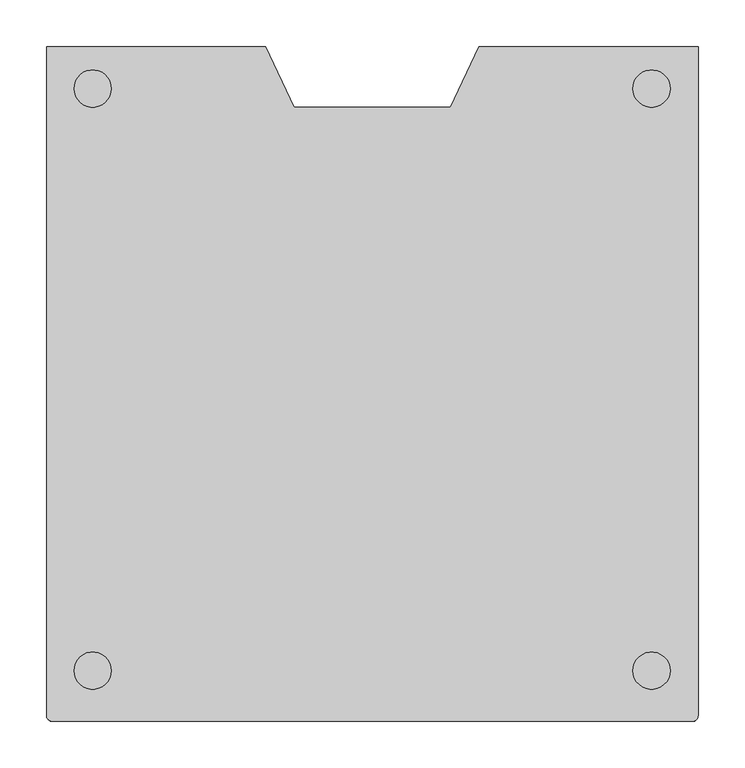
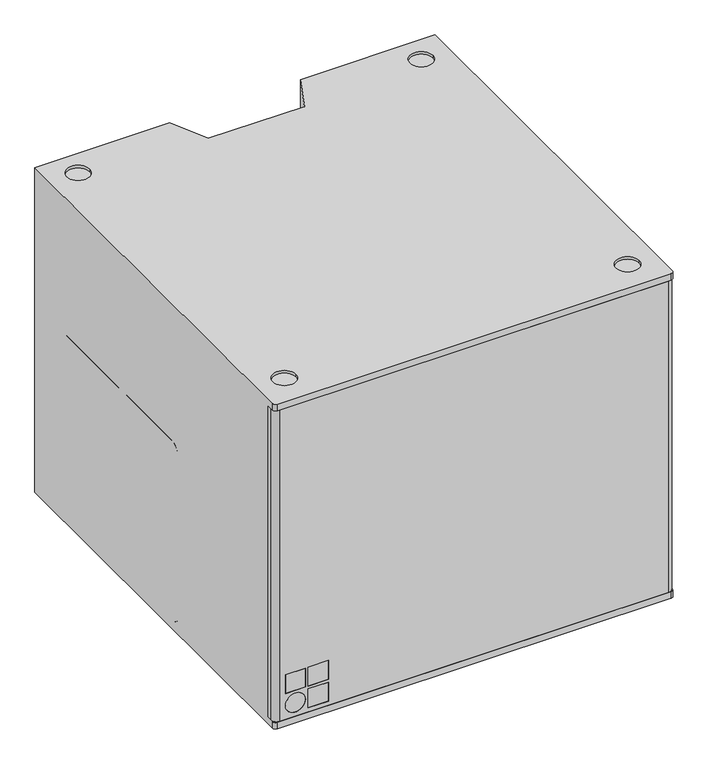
"""IFC4 building model written with IfcOpenShell, lengths in millimetres: proxy geometry, d&b V-Series GSUB Subwoofer : Vi-GSUB."""

from ifc_helpers import new_model, si_unit, point, frame, frame_2d, origin, place, context, project, spatial, polyline, circle_curve, trimmed, segment, composite_curve, outline, extrude, source, transform, mapped, element, save
from ifc_brep_helpers import plane_surface, cylinder_surface, revolved_surface, advanced_brep


def communication_devices_d743389a(model_context):
    return source(origin(), model_context, "Body", "SolidModel", [
        advanced_brep(
        [(123.7, 352.25, 33.5), (226.1099978, 352.25, 33.5), (235.3099978, 352.25, 24.3), (235.3099978, 352.25, -94.3), (226.1099978, 352.25, -103.5), (123.7, 352.25, -103.5), (114.5, 352.25, -94.3), (114.5, 352.25, 24.3), (276.5, 352.25, 158.5), (288.5, 352.25, 146.5), (288.5, 352.25, 93.5), (276.5, 352.25, 81.5), (183.5, 352.25, 81.5), (171.5, 352.25, 93.5), (171.5, 352.25, 146.5), (183.5, 352.25, 158.5), (-276.5, 352.25, 158.5), (-183.5, 352.25, 158.5), (-171.5, 352.25, 146.5), (-171.5, 352.25, 93.5), (-183.5, 352.25, 81.5), (-276.5, 352.25, 81.5), (-288.5, 352.25, 93.5), (-288.5, 352.25, 146.5), (114.5, 362.25, -94.3), (114.5, 362.25, 24.3), (226.1099978, 362.25, -103.5), (123.7, 362.25, -103.5), (235.3099978, 362.25, -94.3), (235.3099978, 362.25, 24.3), (226.1099978, 362.25, 33.5), (123.7, 362.25, 33.5), (183.5, 362.25, 158.5), (276.5, 362.25, 158.5), (171.5, 362.25, 146.5), (171.5, 362.25, 93.5), (183.5, 362.25, 81.5), (276.5, 362.25, 81.5), (288.5, 362.25, 93.5), (288.5, 362.25, 146.5), (-288.5, 362.25, 146.5), (-276.5, 362.25, 158.5), (-288.5, 362.25, 93.5), (-276.5, 362.25, 81.5), (-183.5, 362.25, 81.5), (-171.5, 362.25, 93.5), (-171.5, 362.25, 146.5), (-183.5, 362.25, 158.5), (350.0, -342.25, 288.0), (350.0, -342.25, -288.0), (350.0, -356.25, -288.0), (350.0, -356.25, -300.0), (350.0, 362.25, -300.0), (350.0, 362.25, 300.0), (350.0, -356.25, 300.0), (350.0, -356.25, 288.0), (114.5, 362.25, 300.0), (114.5, 362.25, -300.0), (84.1900022, 297.25, 300.0), (84.1900022, 297.25, -300.0), (-84.1900022, 297.25, 300.0), (-84.1900022, 297.25, -300.0), (-114.5, 362.25, 300.0), (-114.5, 362.25, -300.0), (-350.0, 362.25, 300.0), (-350.0, 362.25, -300.0), (-350.0, -342.25, -288.0), (-350.0, -342.25, 288.0), (-350.0, -356.25, 288.0), (-350.0, -356.25, 300.0), (-350.0, -356.25, -300.0), (-350.0, -356.25, -288.0), (-344.0, -362.25, 300.0), (344.0, -362.25, 300.0), (-320.4325252, 317.1946697, 300.0), (-280.4325252, 317.1946697, 300.0), (-320.4325252, -307.8196697, 300.0), (-280.4325252, -307.8196697, 300.0), (280.0525208, 317.1946697, 300.0), (320.0525208, 317.1946697, 300.0), (280.0525208, -307.8196697, 300.0), (320.0525208, -307.8196697, 300.0), (344.0, -362.25, 288.0), (-344.0, -362.25, 288.0), (344.0, -362.25, -300.0), (-344.0, -362.25, -300.0), (-344.0, -362.25, -288.0), (344.0, -362.25, -288.0), (-280.4325252, 317.1946697, 295.0), (-320.4325252, 317.1946697, 295.0), (-280.4325252, -307.8196697, 295.0), (-320.4325252, -307.8196697, 295.0), (320.0525208, 317.1946697, 295.0), (280.0525208, 317.1946697, 295.0), (320.0525208, -307.8196697, 295.0), (280.0525208, -307.8196697, 295.0)],
        [
            (0, 1),
            (1, 2, circle_curve(frame((226.1099978, 352.25, 24.3), z_axis=(0.0, 1.0, 0.0), x_axis=(-1.0, 0.0, 0.0)), 9.2)),
            (2, 3),
            (3, 4, circle_curve(frame((226.1099978, 352.25, -94.3), z_axis=(0.0, 1.0, 0.0), x_axis=(-1.0, 0.0, 0.0)), 9.2)),
            (4, 5),
            (5, 6, circle_curve(frame((123.7, 352.25, -94.3), z_axis=(0.0, 1.0, 0.0), x_axis=(-1.0, 0.0, 0.0)), 9.2)),
            (6, 7),
            (7, 0, circle_curve(frame((123.7, 352.25, 24.3), z_axis=(0.0, 1.0, 0.0), x_axis=(-1.0, 0.0, 0.0)), 9.2)),
            (8, 9, circle_curve(frame((276.5, 352.25, 146.5), z_axis=(0.0, 1.0, 0.0), x_axis=(-1.0, 0.0, 0.0)), 12.0)),
            (9, 10),
            (10, 11, circle_curve(frame((276.5, 352.25, 93.5), z_axis=(0.0, 1.0, 0.0), x_axis=(-1.0, 0.0, 0.0)), 12.0)),
            (11, 12),
            (12, 13, circle_curve(frame((183.5, 352.25, 93.5), z_axis=(0.0, 1.0, 0.0), x_axis=(-1.0, 0.0, 0.0)), 12.0)),
            (13, 14),
            (14, 15, circle_curve(frame((183.5, 352.25, 146.5), z_axis=(0.0, 1.0, 0.0), x_axis=(-1.0, 0.0, 0.0)), 12.0)),
            (15, 8),
            (16, 17),
            (17, 18, circle_curve(frame((-183.5, 352.25, 146.5), z_axis=(0.0, 1.0, 0.0), x_axis=(-1.0, 0.0, 0.0)), 12.0)),
            (18, 19),
            (19, 20, circle_curve(frame((-183.5, 352.25, 93.5), z_axis=(0.0, 1.0, 0.0), x_axis=(-1.0, 0.0, 0.0)), 12.0)),
            (20, 21),
            (21, 22, circle_curve(frame((-276.5, 352.25, 93.5), z_axis=(0.0, 1.0, 0.0), x_axis=(-1.0, 0.0, 0.0)), 12.0)),
            (22, 23),
            (23, 16, circle_curve(frame((-276.5, 352.25, 146.5), z_axis=(0.0, 1.0, 0.0), x_axis=(-1.0, 0.0, 0.0)), 12.0)),
            (6, 24),
            (24, 25),
            (25, 7),
            (4, 26),
            (26, 27),
            (27, 5),
            (3, 28),
            (28, 26, circle_curve(frame((226.1099978, 362.25, -94.3), z_axis=(0.0, 1.0, 0.0), x_axis=(-1.0, 0.0, 0.0)), 9.2)),
            (2, 29),
            (29, 28),
            (1, 30),
            (30, 29, circle_curve(frame((226.1099978, 362.25, 24.3), z_axis=(0.0, 1.0, 0.0), x_axis=(-1.0, 0.0, 0.0)), 9.2)),
            (0, 31),
            (31, 30),
            (15, 32),
            (32, 33),
            (33, 8),
            (14, 34),
            (34, 32, circle_curve(frame((183.5, 362.25, 146.5), z_axis=(0.0, 1.0, 0.0), x_axis=(-1.0, 0.0, 0.0)), 12.0)),
            (13, 35),
            (35, 34),
            (12, 36),
            (36, 35, circle_curve(frame((183.5, 362.25, 93.5), z_axis=(0.0, 1.0, 0.0), x_axis=(-1.0, 0.0, 0.0)), 12.0)),
            (11, 37),
            (37, 36),
            (10, 38),
            (38, 37, circle_curve(frame((276.5, 362.25, 93.5), z_axis=(0.0, 1.0, 0.0), x_axis=(-1.0, 0.0, 0.0)), 12.0)),
            (9, 39),
            (39, 38),
            (33, 39, circle_curve(frame((276.5, 362.25, 146.5), z_axis=(0.0, 1.0, 0.0), x_axis=(-1.0, 0.0, 0.0)), 12.0)),
            (23, 40),
            (40, 41, circle_curve(frame((-276.5, 362.25, 146.5), z_axis=(0.0, 1.0, 0.0), x_axis=(-1.0, 0.0, 0.0)), 12.0)),
            (41, 16),
            (22, 42),
            (42, 40),
            (21, 43),
            (43, 42, circle_curve(frame((-276.5, 362.25, 93.5), z_axis=(0.0, 1.0, 0.0), x_axis=(-1.0, 0.0, 0.0)), 12.0)),
            (20, 44),
            (44, 43),
            (19, 45),
            (45, 44, circle_curve(frame((-183.5, 362.25, 93.5), z_axis=(0.0, 1.0, 0.0), x_axis=(-1.0, 0.0, 0.0)), 12.0)),
            (18, 46),
            (46, 45),
            (17, 47),
            (47, 46, circle_curve(frame((-183.5, 362.25, 146.5), z_axis=(0.0, 1.0, 0.0), x_axis=(-1.0, 0.0, 0.0)), 12.0)),
            (41, 47),
            (48, 49),
            (49, 50),
            (50, 51),
            (51, 52),
            (52, 53),
            (53, 54),
            (54, 55),
            (55, 48),
            (56, 53),
            (52, 57),
            (57, 24),
            (24, 27, circle_curve(frame((123.7, 362.25, -94.3), z_axis=(0.0, -1.0, 0.0), x_axis=(-1.0, 0.0, 0.0)), 9.2)),
            (31, 25, circle_curve(frame((123.7, 362.25, 24.3), z_axis=(0.0, -1.0, 0.0), x_axis=(-1.0, 0.0, 0.0)), 9.2)),
            (25, 56),
            (58, 56),
            (57, 59),
            (59, 58),
            (60, 58),
            (59, 61),
            (61, 60),
            (62, 60),
            (61, 63),
            (63, 62),
            (64, 62),
            (63, 65),
            (65, 64),
            (66, 67),
            (67, 68),
            (68, 69),
            (69, 64),
            (65, 70),
            (70, 71),
            (71, 66),
            (48, 67),
            (66, 49),
            (69, 72, circle_curve(frame((-344.0, -356.25, 300.0), z_axis=(0.0, 0.0, 1.0), x_axis=(-1.0, 0.0, 0.0)), 6.0)),
            (72, 73),
            (73, 54, circle_curve(frame((344.0, -356.25, 300.0), z_axis=(0.0, 0.0, 1.0), x_axis=(-1.0, 0.0, 0.0)), 6.0)),
            (74, 75, circle_curve(frame((-300.4325252, 317.1946697, 300.0), z_axis=(0.0, 0.0, -1.0), x_axis=(-1.0, 0.0, 0.0)), 20.0)),
            (75, 74, circle_curve(frame((-300.4325252, 317.1946697, 300.0), z_axis=(0.0, 0.0, -1.0), x_axis=(-1.0, 0.0, 0.0)), 20.0)),
            (76, 77, circle_curve(frame((-300.4325252, -307.8196697, 300.0), z_axis=(0.0, 0.0, -1.0), x_axis=(-1.0, 0.0, 0.0)), 20.0)),
            (77, 76, circle_curve(frame((-300.4325252, -307.8196697, 300.0), z_axis=(0.0, 0.0, -1.0), x_axis=(-1.0, 0.0, 0.0)), 20.0)),
            (78, 79, circle_curve(frame((300.0525208, 317.1946697, 300.0), z_axis=(0.0, 0.0, -1.0), x_axis=(-1.0, 0.0, 0.0)), 20.0)),
            (79, 78, circle_curve(frame((300.0525208, 317.1946697, 300.0), z_axis=(0.0, 0.0, -1.0), x_axis=(-1.0, 0.0, 0.0)), 20.0)),
            (80, 81, circle_curve(frame((300.0525208, -307.8196697, 300.0), z_axis=(0.0, 0.0, -1.0), x_axis=(-1.0, 0.0, 0.0)), 20.0)),
            (81, 80, circle_curve(frame((300.0525208, -307.8196697, 300.0), z_axis=(0.0, 0.0, -1.0), x_axis=(-1.0, 0.0, 0.0)), 20.0)),
            (55, 82, circle_curve(frame((344.0, -356.25, 288.0), z_axis=(0.0, 0.0, -1.0), x_axis=(-1.0, 0.0, 0.0)), 6.0)),
            (82, 83),
            (83, 68, circle_curve(frame((-344.0, -356.25, 288.0), z_axis=(0.0, 0.0, -1.0), x_axis=(-1.0, 0.0, 0.0)), 6.0)),
            (72, 83),
            (82, 73),
            (51, 84, circle_curve(frame((344.0, -356.25, -300.0), z_axis=(0.0, 0.0, -1.0), x_axis=(-1.0, 0.0, 0.0)), 6.0)),
            (84, 85),
            (85, 70, circle_curve(frame((-344.0, -356.25, -300.0), z_axis=(0.0, 0.0, -1.0), x_axis=(-1.0, 0.0, 0.0)), 6.0)),
            (71, 86, circle_curve(frame((-344.0, -356.25, -288.0), z_axis=(0.0, 0.0, 1.0), x_axis=(-1.0, 0.0, 0.0)), 6.0)),
            (86, 87),
            (87, 50, circle_curve(frame((344.0, -356.25, -288.0), z_axis=(0.0, 0.0, 1.0), x_axis=(-1.0, 0.0, 0.0)), 6.0)),
            (84, 87),
            (86, 85),
            (88, 89, circle_curve(frame((-300.4325252, 317.1946697, 295.0), z_axis=(0.0, 0.0, 1.0), x_axis=(-1.0, 0.0, 0.0)), 20.0)),
            (89, 88, circle_curve(frame((-300.4325252, 317.1946697, 295.0), z_axis=(0.0, 0.0, 1.0), x_axis=(-1.0, 0.0, 0.0)), 20.0)),
            (90, 91, circle_curve(frame((-300.4325252, -307.8196697, 295.0), z_axis=(0.0, 0.0, 1.0), x_axis=(-1.0, 0.0, 0.0)), 20.0)),
            (91, 90, circle_curve(frame((-300.4325252, -307.8196697, 295.0), z_axis=(0.0, 0.0, 1.0), x_axis=(-1.0, 0.0, 0.0)), 20.0)),
            (92, 93, circle_curve(frame((300.0525208, 317.1946697, 295.0), z_axis=(0.0, 0.0, 1.0), x_axis=(-1.0, 0.0, 0.0)), 20.0)),
            (93, 92, circle_curve(frame((300.0525208, 317.1946697, 295.0), z_axis=(0.0, 0.0, 1.0), x_axis=(-1.0, 0.0, 0.0)), 20.0)),
            (94, 95, circle_curve(frame((300.0525208, -307.8196697, 295.0), z_axis=(0.0, 0.0, 1.0), x_axis=(-1.0, 0.0, 0.0)), 20.0)),
            (95, 94, circle_curve(frame((300.0525208, -307.8196697, 295.0), z_axis=(0.0, 0.0, 1.0), x_axis=(-1.0, 0.0, 0.0)), 20.0)),
            (88, 75),
            (74, 89),
            (90, 77),
            (76, 91),
            (92, 79),
            (78, 93),
            (94, 81),
            (80, 95),
        ],
        [
            plane_surface(frame((114.5, 352.25, 24.3), z_axis=(0.0, 1.0, 0.0), x_axis=(0.0, 0.0, -1.0))),
            plane_surface(frame((114.5, 352.25, 24.3), z_axis=(1.0, 0.0, 0.0), x_axis=(0.0, 1.0, 0.0))),
            plane_surface(frame((123.7, 352.25, -103.5), z_axis=(0.0, 0.0, 1.0), x_axis=(0.0, 1.0, 0.0))),
            revolved_surface(polyline([(216.9099978, 352.25, -94.3), (216.9099978, 362.25, -94.3)]), (226.1099978, 362.25, -94.3), (0.0, -1.0, 0.0)),
            plane_surface(frame((235.3099978, 352.25, -94.3), z_axis=(-1.0, 0.0, 0.0), x_axis=(0.0, 1.0, 0.0))),
            revolved_surface(polyline([(216.9099978, 352.25, 24.3), (216.9099978, 362.25, 24.3)]), (226.1099978, 362.25, 24.3), (0.0, -1.0, 0.0)),
            plane_surface(frame((226.1099978, 352.25, 33.5), z_axis=(0.0, 0.0, -1.0), x_axis=(0.0, 1.0, 0.0))),
            plane_surface(frame((276.5, 352.25, 158.5), z_axis=(0.0, 0.0, -1.0), x_axis=(0.0, 1.0, 0.0))),
            revolved_surface(polyline([(171.5, 352.25, 146.5), (171.5, 362.25, 146.5)]), (183.5, 362.25, 146.5), (0.0, -1.0, 0.0)),
            plane_surface(frame((171.5, 352.25, 146.5), z_axis=(1.0, 0.0, 0.0), x_axis=(0.0, 1.0, 0.0))),
            revolved_surface(polyline([(171.5, 352.25, 93.5), (171.5, 362.25, 93.5)]), (183.5, 362.25, 93.5), (0.0, -1.0, 0.0)),
            plane_surface(frame((183.5, 352.25, 81.5), z_axis=(0.0, 0.0, 1.0), x_axis=(0.0, 1.0, 0.0))),
            revolved_surface(polyline([(264.5, 352.25, 93.5), (264.5, 362.25, 93.5)]), (276.5, 362.25, 93.5), (0.0, -1.0, 0.0)),
            plane_surface(frame((288.5, 352.25, 93.5), z_axis=(-1.0, 0.0, 0.0), x_axis=(0.0, 1.0, 0.0))),
            revolved_surface(polyline([(264.5, 352.25, 146.5), (264.5, 362.25, 146.5)]), (276.5, 362.25, 146.5), (0.0, -1.0, 0.0)),
            revolved_surface(polyline([(-288.5, 352.25, 146.5), (-288.5, 362.25, 146.5)]), (-276.5, 362.25, 146.5), (0.0, -1.0, 0.0)),
            plane_surface(frame((-288.5, 352.25, 146.5), z_axis=(1.0, 0.0, 0.0), x_axis=(0.0, 1.0, 0.0))),
            revolved_surface(polyline([(-288.5, 352.25, 93.5), (-288.5, 362.25, 93.5)]), (-276.5, 362.25, 93.5), (0.0, -1.0, 0.0)),
            plane_surface(frame((-276.5, 352.25, 81.5), z_axis=(0.0, 0.0, 1.0), x_axis=(0.0, 1.0, 0.0))),
            revolved_surface(polyline([(-195.5, 352.25, 93.5), (-195.5, 362.25, 93.5)]), (-183.5, 362.25, 93.5), (0.0, -1.0, 0.0)),
            plane_surface(frame((-171.5, 352.25, 93.5), z_axis=(-1.0, 0.0, 0.0), x_axis=(0.0, 1.0, 0.0))),
            revolved_surface(polyline([(-195.5, 352.25, 146.5), (-195.5, 362.25, 146.5)]), (-183.5, 362.25, 146.5), (0.0, -1.0, 0.0)),
            plane_surface(frame((-183.5, 352.25, 158.5), z_axis=(0.0, 0.0, -1.0), x_axis=(0.0, 1.0, 0.0))),
            plane_surface(frame((350.0, -342.25, 288.0), z_axis=(1.0, 0.0, 0.0), x_axis=(0.0, 0.0, -1.0))),
            plane_surface(frame((350.0, 362.25, 288.0), z_axis=(0.0, 1.0, 0.0), x_axis=(0.0, 0.0, -1.0))),
            plane_surface(frame((114.5, 362.25, 288.0), z_axis=(-0.9063077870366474, 0.42261826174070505, 0.0), x_axis=(0.0, 0.0, -1.0))),
            revolved_surface(polyline([(114.5, 352.25, 24.3), (114.5, 362.25, 24.3)]), (123.7, 362.25, 24.3), (0.0, -1.0, 0.0)),
            revolved_surface(polyline([(114.5, 352.25, -94.3), (114.5, 362.25, -94.3)]), (123.7, 362.25, -94.3), (0.0, -1.0, 0.0)),
            plane_surface(frame((84.1900022, 297.25, 288.0), z_axis=(0.0, 1.0, 0.0), x_axis=(0.0, 0.0, -1.0))),
            plane_surface(frame((-84.1900022, 297.25, 288.0), z_axis=(0.9063077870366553, 0.42261826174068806, 0.0), x_axis=(0.0, 0.0, -1.0))),
            plane_surface(frame((-114.5, 362.25, 288.0), z_axis=(0.0, 1.0, 0.0), x_axis=(0.0, 0.0, -1.0))),
            plane_surface(frame((-350.0, 362.25, 288.0), z_axis=(-1.0, 0.0, 0.0), x_axis=(0.0, 0.0, -1.0))),
            plane_surface(frame((-350.0, -342.25, 288.0), z_axis=(0.0, -1.0, 0.0), x_axis=(0.0, 0.0, -1.0))),
            plane_surface(frame((91.1846171, 312.25, 300.0), z_axis=(0.0, 0.0, 1.0), x_axis=(-0.422618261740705, -0.9063077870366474, 0.0))),
            plane_surface(frame((91.1846171, 312.25, 288.0), z_axis=(0.0, 0.0, -1.0), x_axis=(0.422618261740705, 0.9063077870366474, 0.0))),
            plane_surface(frame((-344.0, -362.25, 300.0), z_axis=(0.0, -1.0, 0.0), x_axis=(0.0, 0.0, -1.0))),
            plane_surface(frame((91.1846171, 312.25, -300.0), z_axis=(0.0, 0.0, -1.0), x_axis=(0.422618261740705, 0.9063077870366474, 0.0))),
            plane_surface(frame((91.1846171, 312.25, -288.0), z_axis=(0.0, 0.0, 1.0), x_axis=(-0.422618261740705, -0.9063077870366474, 0.0))),
            plane_surface(frame((-344.0, -362.25, -288.0), z_axis=(0.0, -1.0, 0.0), x_axis=(0.0, 0.0, -1.0))),
            cylinder_surface(frame((-344.0, -356.25, -300.0), z_axis=(0.0, 0.0, 1.0), x_axis=(-1.0, 0.0, 0.0)), 6.0),
            cylinder_surface(frame((344.0, -356.25, -300.0), z_axis=(0.0, 0.0, 1.0), x_axis=(-1.0, 0.0, 0.0)), 6.0),
            cylinder_surface(frame((-344.0, -356.25, 288.0), z_axis=(0.0, 0.0, 1.0), x_axis=(-1.0, 0.0, 0.0)), 6.0),
            cylinder_surface(frame((344.0, -356.25, 288.0), z_axis=(0.0, 0.0, 1.0), x_axis=(-1.0, 0.0, 0.0)), 6.0),
            plane_surface(frame((-320.4325252, 317.1946697, 295.0), z_axis=(0.0, 0.0, 1.0), x_axis=(0.0, 1.0, 0.0))),
            revolved_surface(polyline([(-320.4325252, 317.1946697, 300.0), (-320.4325252, 317.1946697, 295.0)]), (-300.4325252, 317.1946697, 295.0), (0.0, 0.0, 1.0)),
            revolved_surface(polyline([(-320.4325252, -307.8196697, 300.0), (-320.4325252, -307.8196697, 295.0)]), (-300.4325252, -307.8196697, 300.0), (0.0, 0.0, 1.0)),
            revolved_surface(polyline([(280.0525208, 317.1946697, 300.0), (280.0525208, 317.1946697, 295.0)]), (300.0525208, 317.1946697, 300.0), (0.0, 0.0, 1.0)),
            revolved_surface(polyline([(280.0525208, -307.8196697, 300.0), (280.0525208, -307.8196697, 295.0)]), (300.0525208, -307.8196697, 300.0), (0.0, 0.0, 1.0)),
        ],
        [
            (0, [[1, 2, 3, 4, 5, 6, 7, 8]]),
            (0, [[9, 10, 11, 12, 13, 14, 15, 16]]),
            (0, [[17, 18, 19, 20, 21, 22, 23, 24]]),
            (1, [[-7, 25, 26, 27]]),
            (2, [[-5, 28, 29, 30]]),
            (3, [[-4, 31, 32, -28]]),
            (4, [[-3, 33, 34, -31]]),
            (5, [[-2, 35, 36, -33]]),
            (6, [[-1, 37, 38, -35]]),
            (7, [[-16, 39, 40, 41]]),
            (8, [[-15, 42, 43, -39]]),
            (9, [[-14, 44, 45, -42]]),
            (10, [[-13, 46, 47, -44]]),
            (11, [[-12, 48, 49, -46]]),
            (12, [[-11, 50, 51, -48]]),
            (13, [[-10, 52, 53, -50]]),
            (14, [[-9, -41, 54, -52]]),
            (15, [[-24, 55, 56, 57]]),
            (16, [[-23, 58, 59, -55]]),
            (17, [[-22, 60, 61, -58]]),
            (18, [[-21, 62, 63, -60]]),
            (19, [[-20, 64, 65, -62]]),
            (20, [[-19, 66, 67, -64]]),
            (21, [[-18, 68, 69, -66]]),
            (22, [[-17, -57, 70, -68]]),
            (23, [[71, 72, 73, 74, 75, 76, 77, 78]]),
            (24, [[79, -75, 80, 81, 82, -29, -32, -34, -36, -38, 83, 84], [-40, -43, -45, -47, -49, -51, -53, -54]]),
            (25, [[85, -84, -26, -81, 86, 87]]),
            (26, [[-8, -27, -83, -37]]),
            (27, [[-6, -30, -82, -25]]),
            (28, [[88, -87, 89, 90]]),
            (29, [[91, -90, 92, 93]]),
            (30, [[94, -93, 95, 96], [-56, -59, -61, -63, -65, -67, -69, -70]]),
            (31, [[97, 98, 99, 100, -96, 101, 102, 103]]),
            (32, [[-71, 104, -97, 105]]),
            (33, [[-85, -88, -91, -94, -100, 106, 107, 108, -76, -79], [109, 110], [111, 112], [113, 114], [115, 116]]),
            (34, [[117, 118, 119, -98, -104, -78]]),
            (35, [[-107, 120, -118, 121]]),
            (36, [[-80, -74, 122, 123, 124, -101, -95, -92, -89, -86]]),
            (37, [[125, 126, 127, -72, -105, -103]]),
            (38, [[-123, 128, -126, 129]]),
            (39, [[-124, -129, -125, -102]]),
            (40, [[-122, -73, -127, -128]]),
            (41, [[-106, -99, -119, -120]]),
            (42, [[-108, -121, -117, -77]]),
            (43, [[130, 131]]),
            (43, [[132, 133]]),
            (43, [[134, 135]]),
            (43, [[136, 137]]),
            (44, [[-130, 138, -109, 139]]),
            (44, [[-131, -139, -110, -138]]),
            (45, [[-132, 140, -111, 141]]),
            (45, [[-133, -141, -112, -140]]),
            (46, [[-134, 142, -113, 143]]),
            (46, [[-135, -143, -114, -142]]),
            (47, [[-136, 144, -115, 145]]),
            (47, [[-137, -145, -116, -144]]),
        ],
    ),
        extrude(outline(composite_curve([segment(polyline([(-52.75, 48.0), (264.25, 48.0)]), True, "CONTINUOUS"), segment(trimmed(circle_curve(frame_2d((264.25, 29.0)), 19.0), [point((264.25, 48.0))], [point((283.25, 29.0))], False, "CARTESIAN"), True, "CONTINUOUS"), segment(polyline([(283.25, 29.0), (283.25, -266.0)]), True, "CONTINUOUS"), segment(trimmed(circle_curve(frame_2d((264.25, -266.0)), 19.0), [point((283.25, -266.0))], [point((264.25, -285.0))], False, "CARTESIAN"), True, "CONTINUOUS"), segment(polyline([(264.25, -285.0), (-52.75, -285.0)]), True, "CONTINUOUS"), segment(trimmed(circle_curve(frame_2d((-52.75, -266.0)), 19.0), [point((-52.75, -285.0))], [point((-71.75, -266.0))], False, "CARTESIAN"), True, "CONTINUOUS"), segment(polyline([(-71.75, -266.0), (-71.75, 29.0)]), True, "CONTINUOUS"), segment(trimmed(circle_curve(frame_2d((-52.75, 29.0)), 19.0), [point((-71.75, 29.0))], [point((-52.75, 48.0))], False, "CARTESIAN"), True, "CONTINUOUS")], self_intersect=False)), frame((-350.0, 0.0, 0.0), z_axis=(1.0, 0.0, 0.0), x_axis=(0.0, 1.0, 0.0)), (0.0, 0.0, 1.0), 10.0),
        extrude(outline(composite_curve([segment(trimmed(circle_curve(frame_2d((24.3, 123.7)), 9.2), [point((33.5, 123.7))], [point((24.3, 114.5))], False, "CARTESIAN"), True, "CONTINUOUS"), segment(polyline([(24.3, 114.5), (-94.3, 114.5)]), True, "CONTINUOUS"), segment(trimmed(circle_curve(frame_2d((-94.3, 123.7)), 9.2), [point((-94.3, 114.5))], [point((-103.5, 123.7))], False, "CARTESIAN"), True, "CONTINUOUS"), segment(polyline([(-103.5, 123.7), (-103.5, 226.1099978)]), True, "CONTINUOUS"), segment(trimmed(circle_curve(frame_2d((-94.3, 226.1099978)), 9.2), [point((-103.5, 226.1099978))], [point((-94.3, 235.3099978))], False, "CARTESIAN"), True, "CONTINUOUS"), segment(polyline([(-94.3, 235.3099978), (24.3, 235.3099978)]), True, "CONTINUOUS"), segment(trimmed(circle_curve(frame_2d((24.3, 226.1099978)), 9.2), [point((24.3, 235.3099978))], [point((33.5, 226.1099978))], False, "CARTESIAN"), True, "CONTINUOUS"), segment(polyline([(33.5, 226.1099978), (33.5, 123.7)]), True, "CONTINUOUS")], self_intersect=False)), frame((0.0, 352.25, 0.0), z_axis=(0.0, 1.0, 0.0), x_axis=(0.0, 0.0, 1.0)), (0.0, 0.0, 1.0), 10.0),
        extrude(outline(composite_curve([segment(trimmed(circle_curve(frame_2d((-300.4325252, 317.1946697)), 20.0), [point((-300.4325252, 297.1946697))], [point((-300.4325252, 337.1946697))], False, "CARTESIAN"), True, "CONTINUOUS"), segment(trimmed(circle_curve(frame_2d((-300.4325252, 317.1946697)), 20.0), [point((-300.4325252, 337.1946697))], [point((-300.4325252, 297.1946697))], False, "CARTESIAN"), True, "CONTINUOUS")], self_intersect=False)), frame((0.0, 0.0, -306.0), z_axis=(0.0, 0.0, 1.0), x_axis=(1.0, 0.0, 0.0)), (0.0, 0.0, 1.0), 6.0),
        extrude(outline(composite_curve([segment(trimmed(circle_curve(frame_2d((-300.4325252, -307.8196697)), 20.0), [point((-300.4325252, -327.8196697))], [point((-300.4325252, -287.8196697))], False, "CARTESIAN"), True, "CONTINUOUS"), segment(trimmed(circle_curve(frame_2d((-300.4325252, -307.8196697)), 20.0), [point((-300.4325252, -287.8196697))], [point((-300.4325252, -327.8196697))], False, "CARTESIAN"), True, "CONTINUOUS")], self_intersect=False)), frame((0.0, 0.0, -306.0), z_axis=(0.0, 0.0, 1.0), x_axis=(1.0, 0.0, 0.0)), (0.0, 0.0, 1.0), 6.0),
        extrude(outline(composite_curve([segment(trimmed(circle_curve(frame_2d((300.4325252, 317.1946697)), 20.0), [point((300.4325252, 297.1946697))], [point((300.4325252, 337.1946697))], False, "CARTESIAN"), True, "CONTINUOUS"), segment(trimmed(circle_curve(frame_2d((300.4325252, 317.1946697)), 20.0), [point((300.4325252, 337.1946697))], [point((300.4325252, 297.1946697))], False, "CARTESIAN"), True, "CONTINUOUS")], self_intersect=False)), frame((0.0, 0.0, -306.0), z_axis=(0.0, 0.0, 1.0), x_axis=(1.0, 0.0, 0.0)), (0.0, 0.0, 1.0), 6.0),
        extrude(outline(composite_curve([segment(trimmed(circle_curve(frame_2d((300.4325252, -307.8196697)), 20.0), [point((300.4325252, -327.8196697))], [point((300.4325252, -287.8196697))], False, "CARTESIAN"), True, "CONTINUOUS"), segment(trimmed(circle_curve(frame_2d((300.4325252, -307.8196697)), 20.0), [point((300.4325252, -287.8196697))], [point((300.4325252, -327.8196697))], False, "CARTESIAN"), True, "CONTINUOUS")], self_intersect=False)), frame((0.0, 0.0, -306.0), z_axis=(0.0, 0.0, 1.0), x_axis=(1.0, 0.0, 0.0)), (0.0, 0.0, 1.0), 6.0),
        advanced_brep(
        [(-330.0, -362.25, -205.0), (-330.0, -342.25, -205.0), (-295.0, -342.25, -205.0), (-295.0, -362.25, -205.0), (-330.0, -362.25, -240.0), (-330.0, -342.25, -240.0), (-295.0, -362.25, -240.0), (-295.0, -342.25, -240.0), (-290.0, -362.25, -205.0), (-290.0, -342.25, -205.0), (-255.0, -342.25, -205.0), (-255.0, -362.25, -205.0), (-290.0, -362.25, -240.0), (-290.0, -342.25, -240.0), (-255.0, -362.25, -240.0), (-255.0, -342.25, -240.0), (-290.0, -362.25, -245.0), (-290.0, -342.25, -245.0), (-255.0, -342.25, -245.0), (-255.0, -362.25, -245.0), (-290.0, -362.25, -280.0), (-290.0, -342.25, -280.0), (-255.0, -362.25, -280.0), (-255.0, -342.25, -280.0), (-295.0, -362.25, -262.5), (-295.0, -342.25, -262.5), (-330.0, -342.25, -262.5), (-330.0, -362.25, -262.5), (350.0, -342.25, 288.0), (-350.0, -342.25, 288.0), (-350.0, -352.25, 288.0), (-340.0, -362.25, 288.0), (340.0, -362.25, 288.0), (350.0, -352.25, 288.0), (350.0, -342.25, -288.0), (350.0, -352.25, -288.0), (340.0, -362.25, -288.0), (-340.0, -362.25, -288.0), (-350.0, -352.25, -288.0), (-350.0, -342.25, -288.0)],
        [
            (0, 1),
            (1, 2),
            (2, 3),
            (3, 0),
            (0, 4),
            (4, 5),
            (5, 1),
            (4, 6),
            (6, 7),
            (7, 5),
            (2, 7),
            (6, 3),
            (8, 9),
            (9, 10),
            (10, 11),
            (11, 8),
            (8, 12),
            (12, 13),
            (13, 9),
            (12, 14),
            (14, 15),
            (15, 13),
            (10, 15),
            (14, 11),
            (16, 17),
            (17, 18),
            (18, 19),
            (19, 16),
            (16, 20),
            (20, 21),
            (21, 17),
            (20, 22),
            (22, 23),
            (23, 21),
            (18, 23),
            (22, 19),
            (24, 25),
            (25, 26, circle_curve(frame((-312.5, -342.25, -262.5), z_axis=(0.0, 1.0, 0.0), x_axis=(1.0, 0.0, 0.0)), 17.5)),
            (26, 27),
            (27, 24, circle_curve(frame((-312.5, -362.25, -262.5), z_axis=(0.0, -1.0, 0.0), x_axis=(1.0, 0.0, 0.0)), 17.5)),
            (24, 27, circle_curve(frame((-312.5, -362.25, -262.5), z_axis=(0.0, -1.0, 0.0), x_axis=(1.0, 0.0, 0.0)), 17.5)),
            (26, 25, circle_curve(frame((-312.5, -342.25, -262.5), z_axis=(0.0, 1.0, 0.0), x_axis=(1.0, 0.0, 0.0)), 17.5)),
            (28, 29),
            (29, 30),
            (30, 31, circle_curve(frame((-340.0, -352.25, 288.0), z_axis=(0.0, 0.0, 1.0), x_axis=(1.0, 0.0, 0.0)), 10.0)),
            (31, 32),
            (32, 33, circle_curve(frame((340.0, -352.25, 288.0), z_axis=(0.0, 0.0, 1.0), x_axis=(1.0, 0.0, 0.0)), 10.0)),
            (33, 28),
            (34, 35),
            (35, 36, circle_curve(frame((340.0, -352.25, -288.0), z_axis=(0.0, 0.0, -1.0), x_axis=(1.0, 0.0, 0.0)), 10.0)),
            (36, 37),
            (37, 38, circle_curve(frame((-340.0, -352.25, -288.0), z_axis=(0.0, 0.0, -1.0), x_axis=(1.0, 0.0, 0.0)), 10.0)),
            (38, 39),
            (39, 34),
            (28, 34),
            (39, 29),
            (38, 30),
            (37, 31),
            (36, 32),
            (35, 33),
        ],
        [
            plane_surface(frame((-295.0, -362.25, -205.0), z_axis=(0.0, 0.0, -1.0), x_axis=(0.0, 1.0, 0.0))),
            plane_surface(frame((-330.0, -362.25, -205.0), z_axis=(1.0, 0.0, 0.0), x_axis=(0.0, 1.0, 0.0))),
            plane_surface(frame((-330.0, -362.25, -240.0), z_axis=(0.0, 0.0, 1.0), x_axis=(0.0, 1.0, 0.0))),
            plane_surface(frame((-295.0, -362.25, -240.0), z_axis=(-1.0, 0.0, 0.0), x_axis=(0.0, 1.0, 0.0))),
            plane_surface(frame((-255.0, -362.25, -205.0), z_axis=(0.0, 0.0, -1.0), x_axis=(0.0, 1.0, 0.0))),
            plane_surface(frame((-290.0, -362.25, -205.0), z_axis=(1.0, 0.0, 0.0), x_axis=(0.0, 1.0, 0.0))),
            plane_surface(frame((-290.0, -362.25, -240.0), z_axis=(0.0, 0.0, 1.0), x_axis=(0.0, 1.0, 0.0))),
            plane_surface(frame((-255.0, -362.25, -240.0), z_axis=(-1.0, 0.0, 0.0), x_axis=(0.0, 1.0, 0.0))),
            plane_surface(frame((-255.0, -362.25, -245.0), z_axis=(0.0, 0.0, -1.0), x_axis=(0.0, 1.0, 0.0))),
            plane_surface(frame((-290.0, -362.25, -245.0), z_axis=(1.0, 0.0, 0.0), x_axis=(0.0, 1.0, 0.0))),
            plane_surface(frame((-290.0, -362.25, -280.0), z_axis=(0.0, 0.0, 1.0), x_axis=(0.0, 1.0, 0.0))),
            plane_surface(frame((-255.0, -362.25, -280.0), z_axis=(-1.0, 0.0, 0.0), x_axis=(0.0, 1.0, 0.0))),
            revolved_surface(polyline([(-295.0, -362.25, -262.5), (-295.0, -342.25, -262.5)]), (-312.5, -230.0, -262.5), (0.0, -1.0, 0.0)),
            plane_surface(frame((-350.0, -342.25, 288.0), z_axis=(0.0, 0.0, 1.0), x_axis=(-1.0, 0.0, 0.0))),
            plane_surface(frame((-350.0, -342.25, -288.0), z_axis=(0.0, 0.0, -1.0), x_axis=(1.0, 0.0, 0.0))),
            plane_surface(frame((350.0, -342.25, 288.0), z_axis=(0.0, 1.0, 0.0), x_axis=(0.0, 0.0, -1.0))),
            plane_surface(frame((-350.0, -342.25, 288.0), z_axis=(-1.0, 0.0, 0.0), x_axis=(0.0, 0.0, -1.0))),
            cylinder_surface(frame((-340.0, -352.25, -288.0), z_axis=(0.0, 0.0, 1.0), x_axis=(1.0, 0.0, 0.0)), 10.0),
            plane_surface(frame((-340.0, -362.25, 288.0), z_axis=(0.0, -1.0, 0.0), x_axis=(0.0, 0.0, -1.0))),
            cylinder_surface(frame((340.0, -352.25, -288.0), z_axis=(0.0, 0.0, 1.0), x_axis=(1.0, 0.0, 0.0)), 10.0),
            plane_surface(frame((350.0, -352.25, 288.0), z_axis=(1.0, 0.0, 0.0), x_axis=(0.0, 0.0, -1.0))),
        ],
        [
            (0, [[1, 2, 3, 4]]),
            (1, [[-1, 5, 6, 7]]),
            (2, [[-6, 8, 9, 10]]),
            (3, [[-3, 11, -9, 12]]),
            (4, [[13, 14, 15, 16]]),
            (5, [[-13, 17, 18, 19]]),
            (6, [[-18, 20, 21, 22]]),
            (7, [[-15, 23, -21, 24]]),
            (8, [[25, 26, 27, 28]]),
            (9, [[-25, 29, 30, 31]]),
            (10, [[-30, 32, 33, 34]]),
            (11, [[-27, 35, -33, 36]]),
            (12, [[37, 38, 39, 40]]),
            (12, [[-37, 41, -39, 42]]),
            (13, [[43, 44, 45, 46, 47, 48]]),
            (14, [[49, 50, 51, 52, 53, 54]]),
            (15, [[-43, 55, -54, 56], [-2, -7, -10, -11], [-14, -19, -22, -23], [-26, -31, -34, -35], [-38, -42]]),
            (16, [[-44, -56, -53, 57]]),
            (17, [[-45, -57, -52, 58]]),
            (18, [[-46, -58, -51, 59], [-4, -12, -8, -5], [-16, -24, -20, -17], [-28, -36, -32, -29], [-40, -41]]),
            (19, [[-47, -59, -50, 60]]),
            (20, [[-48, -60, -49, -55]]),
        ],
    ),
        extrude(outline(polyline([(-330.0, -342.25), (-295.0, -342.25), (-295.0, -362.25), (-330.0, -362.25), (-330.0, -342.25)])), frame((0.0, 0.0, -240.0), z_axis=(0.0, 0.0, 1.0), x_axis=(1.0, 0.0, 0.0)), (0.0, 0.0, 1.0), 35.0),
        extrude(outline(polyline([(-290.0, -342.25), (-255.0, -342.25), (-255.0, -362.25), (-290.0, -362.25), (-290.0, -342.25)])), frame((0.0, 0.0, -240.0), z_axis=(0.0, 0.0, 1.0), x_axis=(1.0, 0.0, 0.0)), (0.0, 0.0, 1.0), 35.0),
        extrude(outline(polyline([(-290.0, -342.25), (-255.0, -342.25), (-255.0, -362.25), (-290.0, -362.25), (-290.0, -342.25)])), frame((0.0, 0.0, -280.0), z_axis=(0.0, 0.0, 1.0), x_axis=(1.0, 0.0, 0.0)), (0.0, 0.0, 1.0), 35.0),
        extrude(outline(composite_curve([segment(trimmed(circle_curve(frame_2d((-262.5, -312.5)), 17.5), [point((-262.5, -295.0))], [point((-262.5, -330.0))], False, "CARTESIAN"), True, "CONTINUOUS"), segment(trimmed(circle_curve(frame_2d((-262.5, -312.5)), 17.5), [point((-262.5, -330.0))], [point((-262.5, -295.0))], False, "CARTESIAN"), True, "CONTINUOUS")], self_intersect=False)), frame((0.0, -362.25, 0.0), z_axis=(0.0, 1.0, 0.0), x_axis=(0.0, 0.0, 1.0)), (0.0, 0.0, 1.0), 20.0),
    ])


if __name__ == "__main__":
    model = new_model("IFC4")
    model_context = context("Model", 3, world=origin())
    ifc_project = project(units=[si_unit("LENGTHUNIT", "METRE", prefix="MILLI")], contexts=[model_context])
    site = spatial("IfcSite", under=ifc_project)
    building = spatial("IfcBuilding", under=site)
    placement = place(None, origin())
    communication_devices_shape = communication_devices_d743389a(model_context)
    element("IfcBuildingElementProxy", 1, Name="d&b V-Series GSUB Subwoofer : Vi-GSUB", ObjectType="d&b V-Series GSUB Subwoofer : Vi-GSUB", at=placement, inside=building, context=model_context, shape_type="MappedRepresentation", body=[
        mapped(communication_devices_shape, transform((0.0, 0.0, 0.0), x_axis=(1.0, 0.0, 0.0), y_axis=(0.0, 1.0, 0.0), z_axis=(0.0, 0.0, 1.0))),
    ])
    save(model, "model.ifc")
